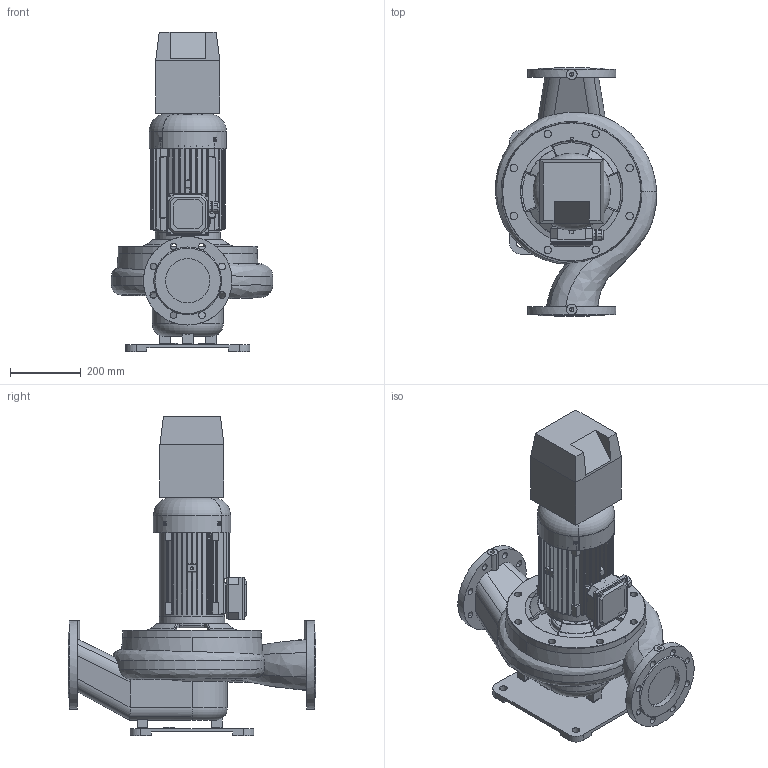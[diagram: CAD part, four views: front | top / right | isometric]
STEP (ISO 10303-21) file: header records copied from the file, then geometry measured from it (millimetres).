
FILE_DESCRIPTION(('STEP AP214'),'1');
FILE_NAME('export.stp','2018-08-08T12:23:22',(' '),(' '),'Spatial InterOp 3D',' ',' ');
FILE_SCHEMA(('AUTOMOTIVE_DESIGN { 1 0 10303 214 1 1 1 1 }'));
Length unit declared in the file: millimetre
Products named in the file (16): W_AL11294NC400KP; V_TL110611291154; V_PPAL1129; V_JALKA30940; 440017; 440016; V_MKP112_2_F31; 480018; 480017; 440018; 440021; 480022; 480020; M25_Blind_Plug; M25_tiivisteholkk; NC_Size1
Assembly tree (15 placements, depth 4):
  W_AL11294NC400KP
    V_TL110611291154
    V_PPAL1129
    V_JALKA30940
    V_MKP112_2_F31
      440017
        440016
      480018
        480017
      440018
      440021
      480022
      480020
      M25_Blind_Plug
      M25_tiivisteholkk
    NC_Size1
Bounding box: 455.8 x 700 x 901.4 mm (x, y, z)
Volume: 37169276 mm3; surface area: 2806031.1 mm2
Topology: 12 solids, 12 shells, 1678 faces, 4713 edges, 3090 vertices
Faces by surface type: cylinder 796, plane 588, cone 144, torus 120, bspline 30
Entity records: 68618 total; most frequent: CARTESIAN_POINT 19862, ORIENTED_EDGE 9398, DIRECTION 9092, EDGE_CURVE 4699, AXIS2_PLACEMENT_3D 3458, VERTEX_POINT 3090, LINE 2176, VECTOR 2176
